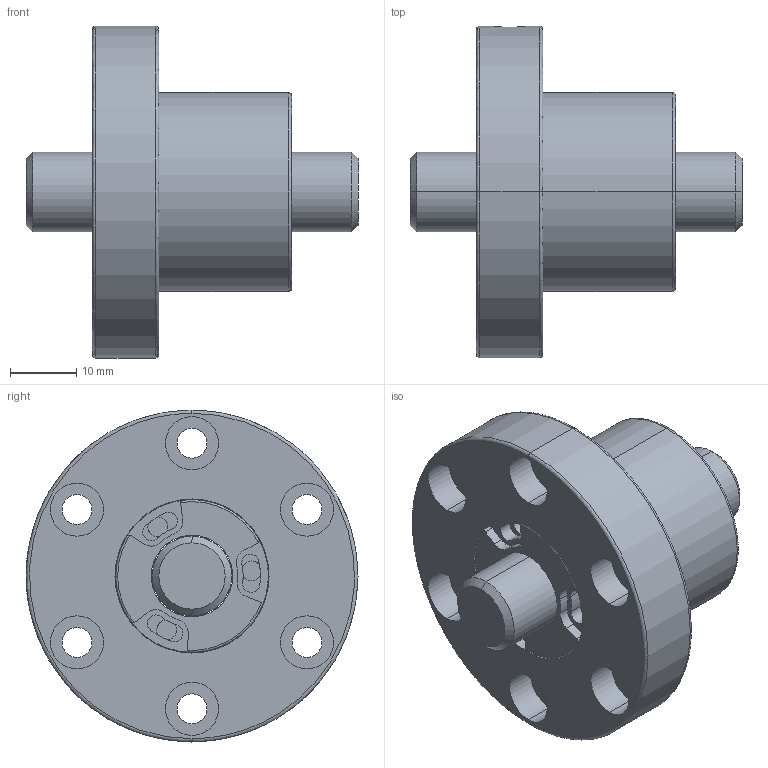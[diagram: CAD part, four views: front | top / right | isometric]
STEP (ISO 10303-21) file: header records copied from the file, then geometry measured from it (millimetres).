
FILE_DESCRIPTION (( 'STEP AP203' ), '1' );
FILE_NAME ('SFVSR01205B1N-C.STEP', '2020-06-17T03:55:52', ( '' ), ( '' ), 'SwSTEP 2.0', 'SolidWorks 2013', '' );
FILE_SCHEMA (( 'CONFIG_CONTROL_DESIGN' ));
Length unit declared in the file: millimetre
Products named in the file (1): SFVSR01205B1N-C
Bounding box: 50 x 50 x 50 mm (x, y, z)
Volume: 32277.5 mm3; surface area: 13319.4 mm2
Topology: 2 solids, 2 shells, 220 faces, 552 edges, 356 vertices
Faces by surface type: cylinder 134, plane 70, bspline 12, cone 4
Entity records: 7224 total; most frequent: CARTESIAN_POINT 1648, DIRECTION 1270, ORIENTED_EDGE 1104, EDGE_CURVE 552, AXIS2_PLACEMENT_3D 543, VERTEX_POINT 356, CIRCLE 334, EDGE_LOOP 258
